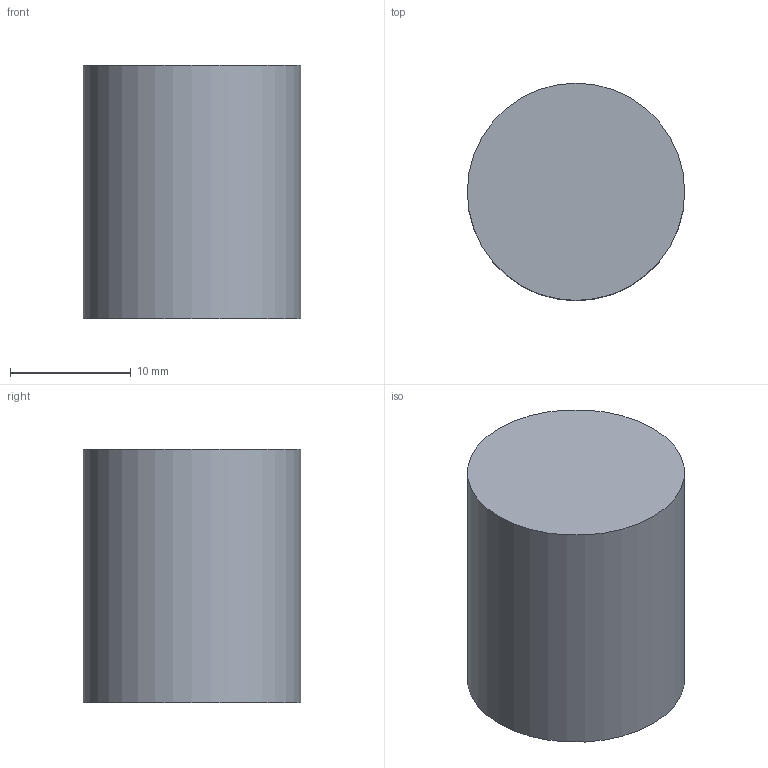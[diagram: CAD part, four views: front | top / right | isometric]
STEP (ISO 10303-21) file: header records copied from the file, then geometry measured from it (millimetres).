
FILE_DESCRIPTION(('Open CASCADE Model'),'2;1');
FILE_NAME('Open CASCADE Shape Model','2026-10-04T01:02:33',('Author'),( 'Open CASCADE'),'Open CASCADE STEP processor 8.0','Open CASCADE 8.0' ,'Unknown');
FILE_SCHEMA(('AUTOMOTIVE_DESIGN { 1 0 10303 214 1 1 1 1 }'));
Length unit declared in the file: millimetre
Products named in the file (1): Open CASCADE STEP translator 8.0 351
Bounding box: 18 x 18 x 21 mm (x, y, z)
Volume: 5343.8 mm3; surface area: 1696.5 mm2
Topology: 1 solids, 1 shells, 3 faces, 3 edges, 2 vertices
Faces by surface type: plane 2, cylinder 1
Full cylindrical faces by diameter (mm): 18 x1
Entity records: 108 total; most frequent: DIRECTION 19, CARTESIAN_POINT 15, AXIS2_PLACEMENT_3D 6, ORIENTED_EDGE 6, PCURVE 6, DEFINITIONAL_REPRESENTATION 6, LINE 5, VECTOR 5
